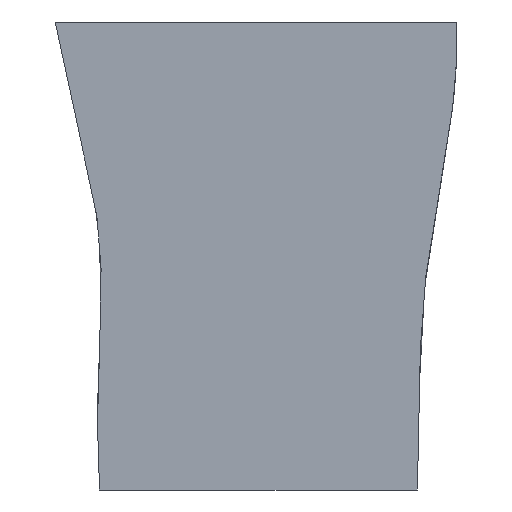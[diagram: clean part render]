
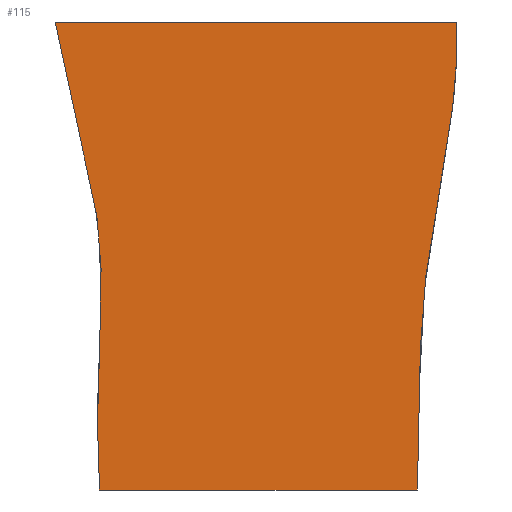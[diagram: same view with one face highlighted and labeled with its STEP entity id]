
A CAD part, front view. The second image highlights one B-rep face of the part: STEP entity #115.
In plain terms, the highlighted planar face has unit normal (0, -1, 0).
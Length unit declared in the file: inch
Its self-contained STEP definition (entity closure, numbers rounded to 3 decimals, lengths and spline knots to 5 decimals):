
#35=FACE_OUTER_BOUND('',#41,.T.);
#41=EDGE_LOOP('',(#102,#103,#104,#105));
#45=LINE('',#187,#53);
#48=LINE('',#220,#56);
#53=VECTOR('',#149,0.3937);
#56=VECTOR('',#154,0.3937);
#60=B_SPLINE_CURVE_WITH_KNOTS('',5,(#208,#209,#210,#211,#212,#213,#214,
#215,#216),.UNSPECIFIED.,.F.,.F.,(6,1,1,1,6),(-0.29652,-0.29242,
-0.21684,-0.13946,-0.13268),.UNSPECIFIED.);
#61=B_SPLINE_CURVE_WITH_KNOTS('',5,(#238,#239,#240,#241,#242,#243,#244,
#245),.UNSPECIFIED.,.F.,.F.,(6,1,1,6),(-0.87861,-0.84947,
-0.77337,-0.71875),.UNSPECIFIED.);
#66=VERTEX_POINT('',#184);
#67=VERTEX_POINT('',#186);
#68=VERTEX_POINT('',#207);
#69=VERTEX_POINT('',#219);
#75=EDGE_CURVE('',#67,#66,#45,.T.);
#77=EDGE_CURVE('',#68,#67,#60,.T.);
#79=EDGE_CURVE('',#69,#68,#48,.T.);
#81=EDGE_CURVE('',#66,#69,#61,.T.);
#102=ORIENTED_EDGE('',*,*,#81,.T.);
#103=ORIENTED_EDGE('',*,*,#79,.T.);
#104=ORIENTED_EDGE('',*,*,#77,.T.);
#105=ORIENTED_EDGE('',*,*,#75,.T.);
#109=PLANE('',#139);
#115=ADVANCED_FACE('',(#35),#109,.T.);
#139=AXIS2_PLACEMENT_3D('',#246,#156,#157);
#149=DIRECTION('',(1.,0.,0.));
#154=DIRECTION('',(-1.,0.,0.));
#156=DIRECTION('center_axis',(0.,-1.,0.));
#157=DIRECTION('ref_axis',(0.,0.,-1.));
#184=CARTESIAN_POINT('',(1.73018,-0.25,2.56));
#186=CARTESIAN_POINT('',(-1.75432,-0.25,2.56));
#187=CARTESIAN_POINT('',(-1.75432,-0.25,2.56));
#207=CARTESIAN_POINT('',(-2.23932,-0.25,7.69));
#208=CARTESIAN_POINT('Ctrl Pts',(-2.23932,-0.25,7.69));
#209=CARTESIAN_POINT('Ctrl Pts',(-2.23349,-0.25,7.65759));
#210=CARTESIAN_POINT('Ctrl Pts',(-2.11875,-0.25,7.03088));
#211=CARTESIAN_POINT('Ctrl Pts',(-1.84923,-0.25,5.93817));
#212=CARTESIAN_POINT('Ctrl Pts',(-1.61108,-0.25,5.3413));
#213=CARTESIAN_POINT('Ctrl Pts',(-1.76552,-0.25,4.4172));
#214=CARTESIAN_POINT('Ctrl Pts',(-1.79618,-0.25,3.23673));
#215=CARTESIAN_POINT('Ctrl Pts',(-1.75778,-0.25,2.61044));
#216=CARTESIAN_POINT('Ctrl Pts',(-1.75432,-0.25,2.56));
#219=CARTESIAN_POINT('',(2.16142,-0.25,7.69));
#220=CARTESIAN_POINT('',(2.16142,-0.25,7.69));
#238=CARTESIAN_POINT('Ctrl Pts',(1.73018,-0.25,2.56));
#239=CARTESIAN_POINT('Ctrl Pts',(1.74057,-0.25,2.7699));
#240=CARTESIAN_POINT('Ctrl Pts',(1.75847,-0.25,3.53463));
#241=CARTESIAN_POINT('Ctrl Pts',(1.7244,-0.25,4.6681));
#242=CARTESIAN_POINT('Ctrl Pts',(1.87049,-0.25,5.43383));
#243=CARTESIAN_POINT('Ctrl Pts',(2.12523,-0.25,6.44512));
#244=CARTESIAN_POINT('Ctrl Pts',(2.17422,-0.25,7.32488));
#245=CARTESIAN_POINT('Ctrl Pts',(2.16142,-0.25,7.69));
#246=CARTESIAN_POINT('Origin',(-0.03255,-0.25,5.125));
